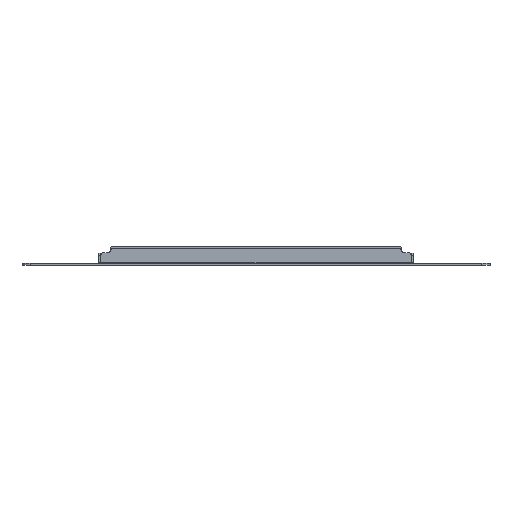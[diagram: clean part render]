
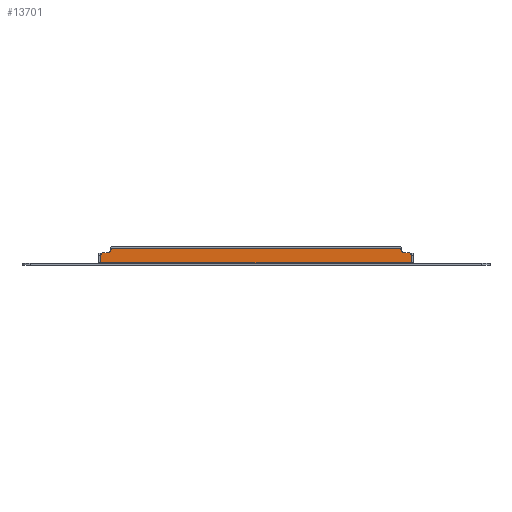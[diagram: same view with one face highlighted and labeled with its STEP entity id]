
A CAD part, front view. The second image highlights one B-rep face of the part: STEP entity #13701.
In plain terms, the highlighted planar face has unit normal (0, -1, 0).
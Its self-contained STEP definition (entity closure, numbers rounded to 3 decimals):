
#6352=CARTESIAN_POINT('',(-75.6,-23.067,4.2));
#6353=DIRECTION('',(0.,-1.,0.));
#6354=DIRECTION('',(0.,0.,1.));
#6355=AXIS2_PLACEMENT_3D('',#6352,#6353,#6354);
#6360=DIRECTION('',(1.,0.,0.));
#6361=VECTOR('',#6360,2.5);
#6362=CARTESIAN_POINT('',(-75.6,-23.067,5.2));
#6363=LINE('',#6362,#6361);
#6367=CARTESIAN_POINT('',(-71.1,-23.067,6.2));
#6368=DIRECTION('',(0.,-1.,0.));
#6369=DIRECTION('',(0.,0.,1.));
#6370=AXIS2_PLACEMENT_3D('',#6367,#6368,#6369);
#6375=CARTESIAN_POINT('',(71.1,-23.067,6.2));
#6376=DIRECTION('',(0.,-1.,0.));
#6377=DIRECTION('',(1.,0.,0.));
#6378=AXIS2_PLACEMENT_3D('',#6375,#6376,#6377);
#6383=DIRECTION('',(-1.,0.,0.));
#6384=VECTOR('',#6383,2.5);
#6385=CARTESIAN_POINT('',(75.6,-23.067,5.2));
#6386=LINE('',#6385,#6384);
#6390=CARTESIAN_POINT('',(75.6,-23.067,4.2));
#6391=DIRECTION('',(0.,-1.,0.));
#6392=DIRECTION('',(1.,0.,0.));
#6393=AXIS2_PLACEMENT_3D('',#6390,#6391,#6392);
#6398=DIRECTION('',(-1.,0.,0.));
#6399=VECTOR('',#6398,153.2);
#6400=CARTESIAN_POINT('',(76.6,-23.067,0.2));
#6401=LINE('',#6400,#6399);
#6412=DIRECTION('',(0.,0.,1.));
#6413=VECTOR('',#6412,4.);
#6414=CARTESIAN_POINT('',(-76.6,-23.067,0.2));
#6415=LINE('',#6414,#6413);
#6500=DIRECTION('',(0.,0.,1.));
#6501=VECTOR('',#6500,4.);
#6502=CARTESIAN_POINT('',(76.6,-23.067,0.2));
#6503=LINE('',#6502,#6501);
#6536=CARTESIAN_POINT('',(73.1,-23.067,6.2));
#6537=DIRECTION('',(0.,1.,0.));
#6538=DIRECTION('',(0.,0.,-1.));
#6539=AXIS2_PLACEMENT_3D('',#6536,#6537,#6538);
#6565=DIRECTION('',(-1.,0.,0.));
#6566=VECTOR('',#6565,142.2);
#6567=CARTESIAN_POINT('',(71.1,-23.067,7.2));
#6568=LINE('',#6567,#6566);
#6579=CARTESIAN_POINT('',(-73.1,-23.067,6.2));
#6580=DIRECTION('',(0.,1.,0.));
#6581=DIRECTION('',(1.,0.,0.));
#6582=AXIS2_PLACEMENT_3D('',#6579,#6580,#6581);
#9109=CARTESIAN_POINT('',(76.6,-23.067,0.2));
#9110=VERTEX_POINT('',#9109);
#9111=CARTESIAN_POINT('',(-76.6,-23.067,0.2));
#9112=VERTEX_POINT('',#9111);
#9201=CARTESIAN_POINT('',(-73.1,-23.067,5.2));
#9203=VERTEX_POINT('',#9201);
#9205=CARTESIAN_POINT('',(73.1,-23.067,5.2));
#9207=VERTEX_POINT('',#9205);
#9249=CARTESIAN_POINT('',(-75.6,-23.067,5.2));
#9250=CARTESIAN_POINT('',(-76.6,-23.067,4.2));
#9251=VERTEX_POINT('',#9249);
#9252=VERTEX_POINT('',#9250);
#9257=CARTESIAN_POINT('',(-71.1,-23.067,7.2));
#9258=CARTESIAN_POINT('',(-72.1,-23.067,6.2));
#9259=VERTEX_POINT('',#9257);
#9260=VERTEX_POINT('',#9258);
#9265=CARTESIAN_POINT('',(72.1,-23.067,6.2));
#9266=CARTESIAN_POINT('',(71.1,-23.067,7.2));
#9267=VERTEX_POINT('',#9265);
#9268=VERTEX_POINT('',#9266);
#9273=CARTESIAN_POINT('',(76.6,-23.067,4.2));
#9274=CARTESIAN_POINT('',(75.6,-23.067,5.2));
#9275=VERTEX_POINT('',#9273);
#9276=VERTEX_POINT('',#9274);
#13671=CARTESIAN_POINT('',(76.6,-23.067,0.2));
#13672=DIRECTION('',(0.,-1.,0.));
#13673=DIRECTION('',(0.,0.,1.));
#13674=AXIS2_PLACEMENT_3D('',#13671,#13672,#13673);
#13675=PLANE('',#13674);
#13677=ORIENTED_EDGE('',*,*,#13676,.F.);
#13679=ORIENTED_EDGE('',*,*,#13678,.T.);
#13681=ORIENTED_EDGE('',*,*,#13680,.F.);
#13683=ORIENTED_EDGE('',*,*,#13682,.F.);
#13685=ORIENTED_EDGE('',*,*,#13684,.F.);
#13687=ORIENTED_EDGE('',*,*,#13686,.F.);
#13689=ORIENTED_EDGE('',*,*,#13688,.F.);
#13691=ORIENTED_EDGE('',*,*,#13690,.F.);
#13693=ORIENTED_EDGE('',*,*,#13692,.F.);
#13695=ORIENTED_EDGE('',*,*,#13694,.F.);
#13696=ORIENTED_EDGE('',*,*,#13666,.T.);
#13698=ORIENTED_EDGE('',*,*,#13697,.T.);
#13699=EDGE_LOOP('',(#13677,#13679,#13681,#13683,#13685,#13687,#13689,#13691,
#13693,#13695,#13696,#13698));
#13700=FACE_OUTER_BOUND('',#13699,.F.);
#6356=CIRCLE('',#6355,1.);
#6371=CIRCLE('',#6370,1.);
#6379=CIRCLE('',#6378,1.);
#6394=CIRCLE('',#6393,1.);
#6540=CIRCLE('',#6539,1.);
#6583=CIRCLE('',#6582,1.);
#13666=EDGE_CURVE('',#9110,#9112,#6401,.T.);
#13676=EDGE_CURVE('',#9251,#9252,#6356,.T.);
#13678=EDGE_CURVE('',#9251,#9203,#6363,.T.);
#13680=EDGE_CURVE('',#9260,#9203,#6583,.T.);
#13682=EDGE_CURVE('',#9259,#9260,#6371,.T.);
#13684=EDGE_CURVE('',#9268,#9259,#6568,.T.);
#13686=EDGE_CURVE('',#9267,#9268,#6379,.T.);
#13688=EDGE_CURVE('',#9207,#9267,#6540,.T.);
#13690=EDGE_CURVE('',#9276,#9207,#6386,.T.);
#13692=EDGE_CURVE('',#9275,#9276,#6394,.T.);
#13694=EDGE_CURVE('',#9110,#9275,#6503,.T.);
#13697=EDGE_CURVE('',#9112,#9252,#6415,.T.);
#13701=ADVANCED_FACE('',(#13700),#13675,.T.);
